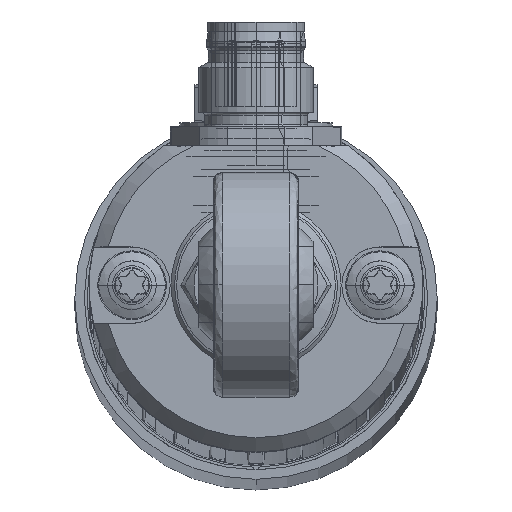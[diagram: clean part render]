
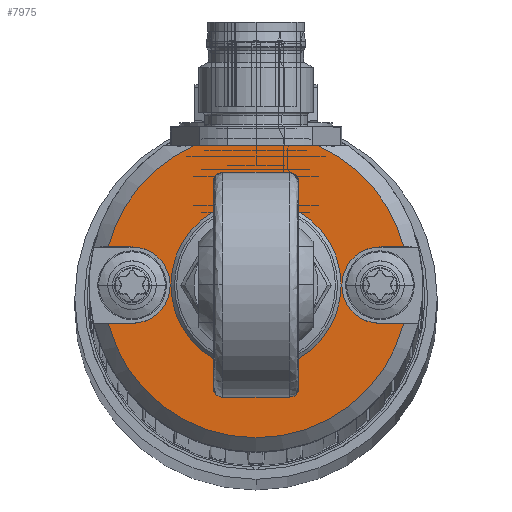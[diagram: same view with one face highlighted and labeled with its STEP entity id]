
A CAD part, top view. The second image highlights one B-rep face of the part: STEP entity #7975.
In plain terms, the highlighted planar face has unit normal (0, 0, 1).
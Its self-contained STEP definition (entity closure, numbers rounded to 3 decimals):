
#7843 = VERTEX_POINT ( 'NONE', #23764 ) ;
#7901 = EDGE_CURVE ( 'NONE', #7843, #7902, #23904, .T. ) ;
#7902 = VERTEX_POINT ( 'NONE', #23899 ) ;
#7951 = ORIENTED_EDGE ( 'NONE', *, *, #7952, .F. ) ;
#7952 = EDGE_CURVE ( 'NONE', #7953, #8034, #24013, .T. ) ;
#7953 = VERTEX_POINT ( 'NONE', #24009 ) ;
#7954 = ORIENTED_EDGE ( 'NONE', *, *, #8010, .F. ) ;
#7955 = ORIENTED_EDGE ( 'NONE', *, *, #7956, .T. ) ;
#7956 = EDGE_CURVE ( 'NONE', #7984, #7957, #24008, .T. ) ;
#7957 = VERTEX_POINT ( 'NONE', #24004 ) ;
#7958 = ORIENTED_EDGE ( 'NONE', *, *, #7959, .T. ) ;
#7959 = EDGE_CURVE ( 'NONE', #7957, #7960, #24003, .T. ) ;
#7960 = VERTEX_POINT ( 'NONE', #23998 ) ;
#7961 = ORIENTED_EDGE ( 'NONE', *, *, #7962, .T. ) ;
#7962 = EDGE_CURVE ( 'NONE', #7960, #7963, #23997, .T. ) ;
#7963 = VERTEX_POINT ( 'NONE', #24059 ) ;
#7964 = ORIENTED_EDGE ( 'NONE', *, *, #7965, .T. ) ;
#7965 = EDGE_CURVE ( 'NONE', #7963, #7966, #24058, .T. ) ;
#7966 = VERTEX_POINT ( 'NONE', #24053 ) ;
#7967 = ORIENTED_EDGE ( 'NONE', *, *, #7968, .F. ) ;
#7968 = EDGE_CURVE ( 'NONE', #8025, #7966, #24052, .T. ) ;
#7975 = ADVANCED_FACE ( 'NONE', ( #24042, #24041 ), #24086, .F. ) ;
#7976 = EDGE_LOOP ( 'NONE', ( #7979, #7982 ) ) ;
#7979 = ORIENTED_EDGE ( 'NONE', *, *, #7981, .F. ) ;
#7981 = EDGE_CURVE ( 'NONE', #7902, #7843, #24075, .T. ) ;
#7982 = ORIENTED_EDGE ( 'NONE', *, *, #7901, .F. ) ;
#7983 = EDGE_LOOP ( 'NONE', ( #7955, #7958, #7961, #7964, #7967, #8026, #8029, #8032, #7951, #7954 ) ) ;
#7984 = VERTEX_POINT ( 'NONE', #24070 ) ;
#8010 = EDGE_CURVE ( 'NONE', #7984, #7953, #24177, .T. ) ;
#8025 = VERTEX_POINT ( 'NONE', #24246 ) ;
#8026 = ORIENTED_EDGE ( 'NONE', *, *, #8027, .F. ) ;
#8027 = EDGE_CURVE ( 'NONE', #8028, #8025, #24245, .T. ) ;
#8028 = VERTEX_POINT ( 'NONE', #24240 ) ;
#8029 = ORIENTED_EDGE ( 'NONE', *, *, #8030, .T. ) ;
#8030 = EDGE_CURVE ( 'NONE', #8028, #8031, #24239, .T. ) ;
#8031 = VERTEX_POINT ( 'NONE', #24235 ) ;
#8032 = ORIENTED_EDGE ( 'NONE', *, *, #8033, .T. ) ;
#8033 = EDGE_CURVE ( 'NONE', #8031, #8034, #24234, .T. ) ;
#8034 = VERTEX_POINT ( 'NONE', #24229 ) ;
#23764 = CARTESIAN_POINT ( 'NONE',  ( 0., 4.3, 786.7 ) ) ;
#23899 = CARTESIAN_POINT ( 'NONE',  ( 0., -4.3, 786.7 ) ) ;
#23900 = DIRECTION ( 'NONE',  ( 0., -1., 0. ) ) ;
#23901 = DIRECTION ( 'NONE',  ( 0., 0., 1. ) ) ;
#23902 = CARTESIAN_POINT ( 'NONE',  ( 0., 0., 786.7 ) ) ;
#23903 = AXIS2_PLACEMENT_3D ( 'NONE', #23902, #23901, #23900 ) ;
#23904 = CIRCLE ( 'NONE', #23903, 4.3 ) ;
#23996 = CARTESIAN_POINT ( 'NONE',  ( 0., 14.6, 786.7 ) ) ;
#23997 = LINE ( 'NONE', #23996, #24061 ) ;
#23998 = CARTESIAN_POINT ( 'NONE',  ( 6.545, 14.6, 786.7 ) ) ;
#23999 = DIRECTION ( 'NONE',  ( 0., 1., 0. ) ) ;
#24000 = DIRECTION ( 'NONE',  ( 0., 0., 1. ) ) ;
#24001 = CARTESIAN_POINT ( 'NONE',  ( 0., 0., 786.7 ) ) ;
#24002 = AXIS2_PLACEMENT_3D ( 'NONE', #24001, #24000, #23999 ) ;
#24003 = CIRCLE ( 'NONE', #24002, 16. ) ;
#24004 = CARTESIAN_POINT ( 'NONE',  ( 15.492, 4., 786.7 ) ) ;
#24005 = DIRECTION ( 'NONE',  ( 1., 0., 0. ) ) ;
#24006 = VECTOR ( 'NONE', #24005, 1000. ) ;
#24007 = CARTESIAN_POINT ( 'NONE',  ( 0., 4., 786.7 ) ) ;
#24008 = LINE ( 'NONE', #24007, #24006 ) ;
#24009 = CARTESIAN_POINT ( 'NONE',  ( 13., -4., 786.7 ) ) ;
#24010 = DIRECTION ( 'NONE',  ( 1., 0., 0. ) ) ;
#24011 = VECTOR ( 'NONE', #24010, 1000. ) ;
#24012 = CARTESIAN_POINT ( 'NONE',  ( 13., -4., 786.7 ) ) ;
#24013 = LINE ( 'NONE', #24012, #24011 ) ;
#24041 = FACE_OUTER_BOUND ( 'NONE', #7983, .T. ) ;
#24042 = FACE_BOUND ( 'NONE', #7976, .T. ) ;
#24049 = DIRECTION ( 'NONE',  ( -1., 0., 0. ) ) ;
#24050 = VECTOR ( 'NONE', #24049, 1000. ) ;
#24051 = CARTESIAN_POINT ( 'NONE',  ( -20., 4., 786.7 ) ) ;
#24052 = LINE ( 'NONE', #24051, #24050 ) ;
#24053 = CARTESIAN_POINT ( 'NONE',  ( -15.492, 4., 786.7 ) ) ;
#24054 = DIRECTION ( 'NONE',  ( 0., 1., 0. ) ) ;
#24055 = DIRECTION ( 'NONE',  ( 0., 0., 1. ) ) ;
#24056 = CARTESIAN_POINT ( 'NONE',  ( 0., 0., 786.7 ) ) ;
#24057 = AXIS2_PLACEMENT_3D ( 'NONE', #24056, #24055, #24054 ) ;
#24058 = CIRCLE ( 'NONE', #24057, 16. ) ;
#24059 = CARTESIAN_POINT ( 'NONE',  ( -6.545, 14.6, 786.7 ) ) ;
#24060 = DIRECTION ( 'NONE',  ( -1., 0., 0. ) ) ;
#24061 = VECTOR ( 'NONE', #24060, 1000. ) ;
#24070 = CARTESIAN_POINT ( 'NONE',  ( 13., 4., 786.7 ) ) ;
#24071 = DIRECTION ( 'NONE',  ( 0., -1., 0. ) ) ;
#24072 = DIRECTION ( 'NONE',  ( 0., 0., 1. ) ) ;
#24073 = CARTESIAN_POINT ( 'NONE',  ( 0., 0., 786.7 ) ) ;
#24074 = AXIS2_PLACEMENT_3D ( 'NONE', #24073, #24072, #24071 ) ;
#24075 = CIRCLE ( 'NONE', #24074, 4.3 ) ;
#24081 = DIRECTION ( 'NONE',  ( 0., 1., 0. ) ) ;
#24082 = DIRECTION ( 'NONE',  ( 0., 0., -1. ) ) ;
#24083 = CARTESIAN_POINT ( 'NONE',  ( 0., 0., 786.7 ) ) ;
#24084 = AXIS2_PLACEMENT_3D ( 'NONE', #24083, #24082, #24081 ) ;
#24086 = PLANE ( 'NONE',  #24084 ) ;
#24170 = AXIS2_PLACEMENT_3D ( 'NONE', #40792, #41906, #42079 ) ;
#24177 = CIRCLE ( 'NONE', #24170, 4. ) ;
#24229 = CARTESIAN_POINT ( 'NONE',  ( 15.492, -4., 786.7 ) ) ;
#24230 = DIRECTION ( 'NONE',  ( 0., 1., 0. ) ) ;
#24231 = DIRECTION ( 'NONE',  ( 0., 0., 1. ) ) ;
#24232 = CARTESIAN_POINT ( 'NONE',  ( 0., 0., 786.7 ) ) ;
#24233 = AXIS2_PLACEMENT_3D ( 'NONE', #24232, #24231, #24230 ) ;
#24234 = CIRCLE ( 'NONE', #24233, 16. ) ;
#24235 = CARTESIAN_POINT ( 'NONE',  ( -15.492, -4., 786.7 ) ) ;
#24236 = DIRECTION ( 'NONE',  ( -1., 0., 0. ) ) ;
#24237 = VECTOR ( 'NONE', #24236, 1000. ) ;
#24238 = CARTESIAN_POINT ( 'NONE',  ( 0., -4., 786.7 ) ) ;
#24239 = LINE ( 'NONE', #24238, #24237 ) ;
#24240 = CARTESIAN_POINT ( 'NONE',  ( -13., -4., 786.7 ) ) ;
#24241 = DIRECTION ( 'NONE',  ( 0., -1., 0. ) ) ;
#24242 = DIRECTION ( 'NONE',  ( 0., 0., 1. ) ) ;
#24243 = CARTESIAN_POINT ( 'NONE',  ( -13., 0., 786.7 ) ) ;
#24244 = AXIS2_PLACEMENT_3D ( 'NONE', #24243, #24242, #24241 ) ;
#24245 = CIRCLE ( 'NONE', #24244, 4. ) ;
#24246 = CARTESIAN_POINT ( 'NONE',  ( -13., 4., 786.7 ) ) ;
#40792 = CARTESIAN_POINT ( 'NONE',  ( 13., 0., 786.7 ) ) ;
#41906 = DIRECTION ( 'NONE',  ( 0., 0., 1. ) ) ;
#42079 = DIRECTION ( 'NONE',  ( 0., -1., 0. ) ) ;
